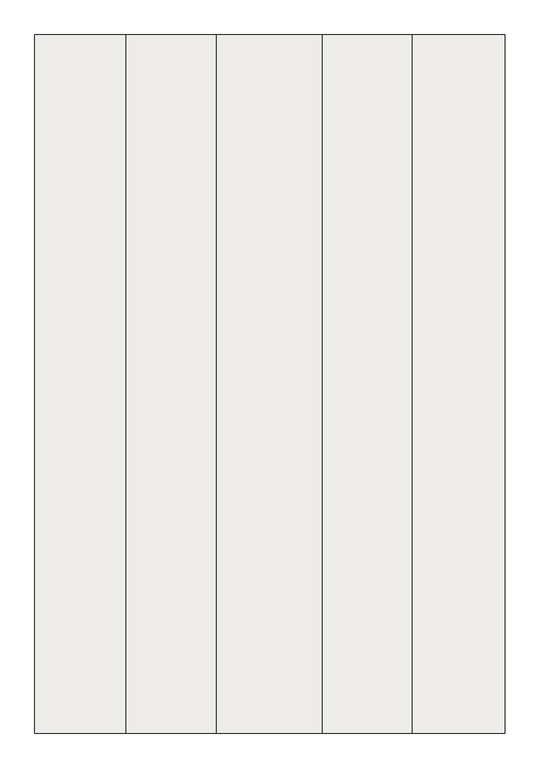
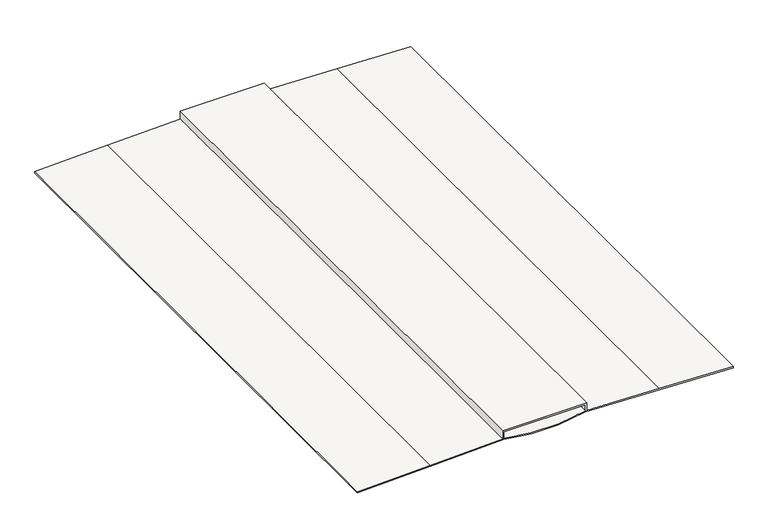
"""IFC4 building model written with IfcOpenShell, lengths in millimetres: covering geometry, Plafonds 1 : Plafonds 1."""

from ifc_helpers import new_model, si_unit, point, frame, frame_2d, origin, place, context, project, spatial, polyline, circle_curve, trimmed, segment, composite_curve, outline, extrude, source, transform, mapped, element, save


def covering_342fbc90(model_context):
    return source(origin(), model_context, "Body", "SweptSolid", [
        extrude(outline(composite_curve([segment(polyline([(-1374.4366832, 17987.0687812), (-1343.6517778, 17987.0687812)]), True, "CONTINUOUS"), segment(trimmed(circle_curve(frame_2d((3139.1564035, 16951.398111)), 4600.8893626), [point((-1343.6517778, 17987.0687812))], [point((-1357.5994208, 15978.0687812))], True, "CARTESIAN"), True, "CONTINUOUS"), segment(polyline([(-1357.5994208, 15978.0687812), (-1388.2894885, 15978.0687812)]), True, "CONTINUOUS"), segment(trimmed(circle_curve(frame_2d((3139.1564035, 16951.398111)), 4630.8893626), [point((-1388.2894885, 15978.0687812))], [point((-1374.4366832, 17987.0687812))], False, "CARTESIAN"), True, "CONTINUOUS")], self_intersect=False)), frame((0.0, -26503.5743319, 0.0), z_axis=(0.0, 1.0, 0.0), x_axis=(0.0, 0.0, 1.0)), (0.0, 0.0, 1.0), 13736.1106015),
        extrude(outline(composite_curve([segment(trimmed(circle_curve(frame_2d((-108824.8318714, 16990.8396006)), 107410.892595), [point((-1513.5377416, 12366.3396006))], [point((-1451.1501622, 14163.7696925))], True, "CARTESIAN"), True, "CONTINUOUS"), segment(trimmed(circle_curve(frame_2d((107737.1081339, 11288.9233202)), 109226.0980324), [point((-1451.1501622, 14163.7696925))], [point((-1388.2894885, 15978.0687812))], False, "CARTESIAN"), True, "CONTINUOUS"), segment(polyline([(-1388.2894885, 15978.0687812), (-1186.6852733, 15978.0687812), (-1186.6852733, 17987.0687812), (-1374.4366832, 17987.0687812)]), True, "CONTINUOUS"), segment(trimmed(circle_curve(frame_2d((150504.4553001, 23767.8026603)), 151988.8637837), [point((-1374.4366832, 17987.0687812))], [point((-1432.6787959, 19802.7053163))], False, "CARTESIAN"), True, "CONTINUOUS"), segment(trimmed(circle_curve(frame_2d((-108807.0138972, 17000.5615648)), 107410.892595), [point((-1432.6787959, 19802.7053163))], [point((-1495.504366, 21620.0604759))], True, "CARTESIAN"), True, "CONTINUOUS"), segment(polyline([(-1495.504366, 21620.0604759), (-1465.4765903, 21620.0604759)]), True, "CONTINUOUS"), segment(trimmed(circle_curve(frame_2d((-108807.0138972, 17000.5615648)), 107440.892595), [point((-1465.4765903, 21620.0604759))], [point((-1402.6890064, 19803.4879586))], False, "CARTESIAN"), True, "CONTINUOUS"), segment(trimmed(circle_curve(frame_2d((150504.4553001, 23767.8026603)), 151958.8637837), [point((-1402.6890064, 19803.4879586))], [point((-1345.5540587, 18017.0687812))], True, "CARTESIAN"), True, "CONTINUOUS"), segment(polyline([(-1345.5540587, 18017.0687812), (-1156.6852733, 18017.0687812), (-1156.6852733, 15948.0687812), (-1359.5471269, 15948.0687812)]), True, "CONTINUOUS"), segment(trimmed(circle_curve(frame_2d((107737.1081339, 11288.9233202)), 109196.0980324), [point((-1359.5471269, 15948.0687812))], [point((-1421.1605552, 14162.9800883))], True, "CARTESIAN"), True, "CONTINUOUS"), segment(trimmed(circle_curve(frame_2d((-108824.8318714, 16990.8396006)), 107440.892595), [point((-1421.1605552, 14162.9800883))], [point((-1483.5099056, 12366.3396006))], False, "CARTESIAN"), True, "CONTINUOUS"), segment(polyline([(-1483.5099056, 12366.3396006), (-1513.5377416, 12366.3396006)]), True, "CONTINUOUS")], self_intersect=False)), frame((0.0, -26503.5743319, 0.0), z_axis=(0.0, 1.0, 0.0), x_axis=(0.0, 0.0, 1.0)), (0.0, 0.0, 1.0), 13736.1106015),
    ])


if __name__ == "__main__":
    model = new_model("IFC4")
    model_context = context("Model", 3, world=origin())
    ifc_project = project(units=[si_unit("LENGTHUNIT", "METRE", prefix="MILLI")], contexts=[model_context])
    site = spatial("IfcSite", under=ifc_project)
    building = spatial("IfcBuilding", under=site)
    placement = place(None, origin())
    covering_shape = covering_342fbc90(model_context)
    element("IfcCovering", 1, ObjectType="Plafonds 1 : Plafonds 1", at=placement, inside=building, context=model_context, shape_type="MappedRepresentation", body=[
        mapped(covering_shape, transform((0.0, 0.0, 0.0), x_axis=(1.0, 0.0, 0.0), y_axis=(0.0, 1.0, 0.0), z_axis=(0.0, 0.0, 1.0))),
    ])
    save(model, "model.ifc")
